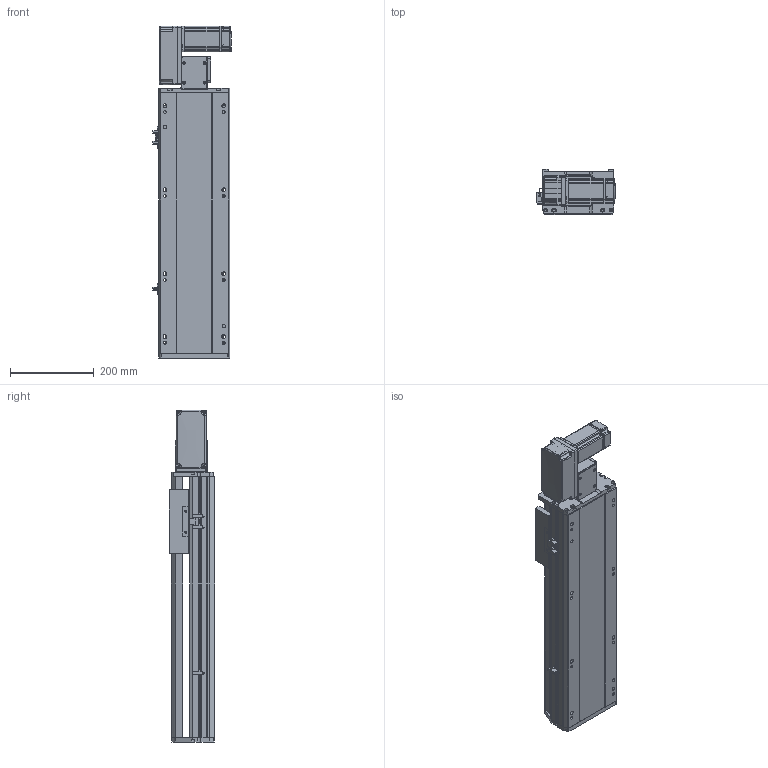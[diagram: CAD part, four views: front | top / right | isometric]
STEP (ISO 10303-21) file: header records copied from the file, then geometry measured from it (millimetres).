
FILE_DESCRIPTION (( 'STEP AP214' ), '1' );
FILE_NAME ('RTB17S-XX-350-L-M40-C4.STEP', '2025-12-11T03:50:30', ( '' ), ( '' ), 'SwSTEP 2.0', 'SolidWorks 2018', '' );
FILE_SCHEMA (( 'AUTOMOTIVE_DESIGN' ));
Length unit declared in the file: millimetre
Products named in the file (14): RTB17S-L-001耜醱啣^RTB17S-XX-XX-L-M40-C4; RMP17S-L-014-T20--々湍釱^RTB17S-L-々湍釱蚾饜-400W_RTB17S-XX-XX-L-M40-C4; RTH13-BL-012覜茼え俋离^RTB17S-XX-XX-L-M40-C4; OMRON EE-SX672 传感器^RTB17S-XX-XX-L-M40-C4; RTB14-L-008-M20--萇儂啣^RTB17S-L-々湍釱蚾饜-400W_RTB17S-XX-XX-L-M40-C4; RTB17-R-011菁釱^RTB17S-XX-XX-L-M40-C4; RTB14-L-018P^RTB17S-L-々湍釱蚾饜-400W_RTB17S-XX-XX-L-M40-C4; RTB17S-L-004佪裝蹟譫蟀諉釱^RTB17S-XX-XX-L-M40-C4; RTB17S-L-々湍釱蚾饜-400W^RTB17S-XX-XX-L-M40-C4; 400W侜督萇儂^RTB17S-XX-XX-L-M40-C4; RTB14-L-005P--轴承塑胶压盖^RTB17S-L-皮带座装配-400W_RTB17S-XX-XX-L-M40-C4; RTB14-L-017P^RTB17S-L-々湍釱蚾饜-400W_RTB17S-XX-XX-L-M40-C4; RTB17S-L-007奻裔^RTB17S-XX-XX-L-M40-C4; RTB17S-XX-350-L-M40-C4
Assembly tree (16 placements, depth 3):
  RTB17S-XX-350-L-M40-C4
    RTB17-R-011菁釱^RTB17S-XX-XX-L-M40-C4
    RTB17S-L-007奻裔^RTB17S-XX-XX-L-M40-C4
    OMRON EE-SX672 传感器^RTB17S-XX-XX-L-M40-C4  x3
    RTB17S-L-001耜醱啣^RTB17S-XX-XX-L-M40-C4
    400W侜督萇儂^RTB17S-XX-XX-L-M40-C4
    RTB17S-L-004佪裝蹟譫蟀諉釱^RTB17S-XX-XX-L-M40-C4
    RTH13-BL-012覜茼え俋离^RTB17S-XX-XX-L-M40-C4
    RTB17S-L-々湍釱蚾饜-400W^RTB17S-XX-XX-L-M40-C4
      RMP17S-L-014-T20--々湍釱^RTB17S-L-々湍釱蚾饜-400W_RTB17S-XX-XX-L-M40-C4
      RTB14-L-005P--轴承塑胶压盖^RTB17S-L-皮带座装配-400W_RTB17S-XX-XX-L-M40-C4
      RTB14-L-008-M20--萇儂啣^RTB17S-L-々湍釱蚾饜-400W_RTB17S-XX-XX-L-M40-C4
      RTB14-L-017P^RTB17S-L-々湍釱蚾饜-400W_RTB17S-XX-XX-L-M40-C4  x2
      RTB14-L-018P^RTB17S-L-々湍釱蚾饜-400W_RTB17S-XX-XX-L-M40-C4
Bounding box: 186 x 108 x 791 mm (x, y, z)
Volume: 7073678.8 mm3; surface area: 920025.4 mm2
Topology: 15 solids, 15 shells, 2157 faces, 5925 edges, 3861 vertices
Faces by surface type: plane 1062, cylinder 647, bspline 301, cone 139, torus 8
Entity records: 60329 total; most frequent: CARTESIAN_POINT 16730, ORIENTED_EDGE 8694, DIRECTION 8126, EDGE_CURVE 4347, VERTEX_POINT 2849, AXIS2_PLACEMENT_3D 2779, LINE 2568, VECTOR 2568
